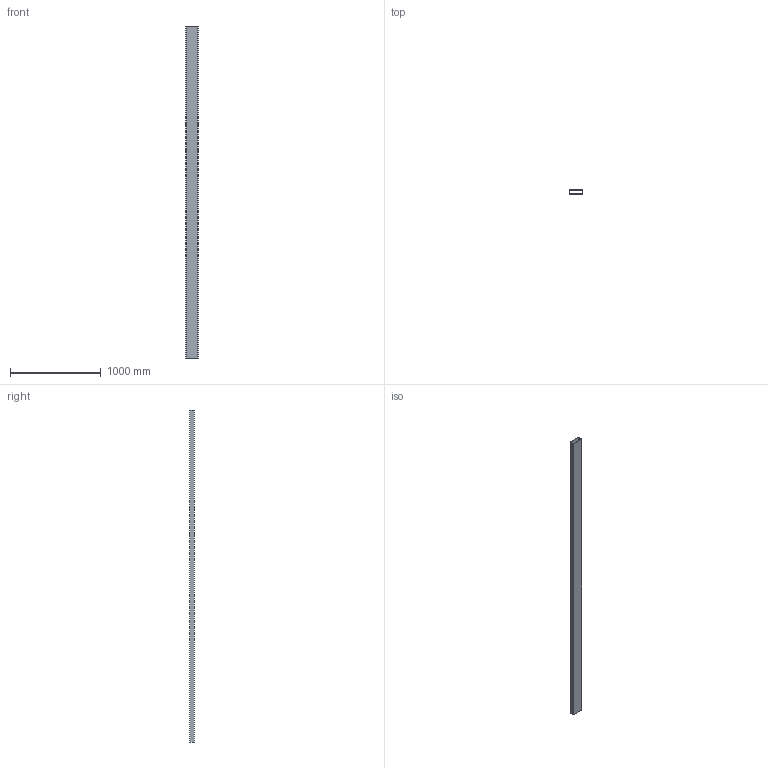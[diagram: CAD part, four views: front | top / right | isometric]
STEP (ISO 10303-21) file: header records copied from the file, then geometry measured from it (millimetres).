
FILE_DESCRIPTION(/* description */ (''),/* implementation_level */ '2;1');
FILE_NAME(/* name */ 'SLIDG24.stp',/* time_stamp */ '2024-05-02T17:29:57-04:00',/* author */ ('olivier.st-arneault'),/* organization */ (''),/* preprocessor_version */ 'ST-DEVELOPER v20',/* originating_system */ 'Autodesk Inventor 2024',/* authorisation */ '');
FILE_SCHEMA (('AUTOMOTIVE_DESIGN { 1 0 10303 214 3 1 1 }'));
Length unit declared in the file: inch
Products named in the file (1): Latte 2x5.25 - Final
Bounding box: 133.3 x 50.75 x 3657.6 mm (x, y, z)
Volume: 697313.5 mm3; surface area: 2880350.9 mm2
Topology: 1 solids, 1 shells, 30 faces, 84 edges, 56 vertices
Faces by surface type: plane 18, cylinder 12
Entity records: 1015 total; most frequent: CARTESIAN_POINT 171, DIRECTION 170, ORIENTED_EDGE 168, EDGE_CURVE 84, LINE 60, VECTOR 60, VERTEX_POINT 56, AXIS2_PLACEMENT_3D 55
